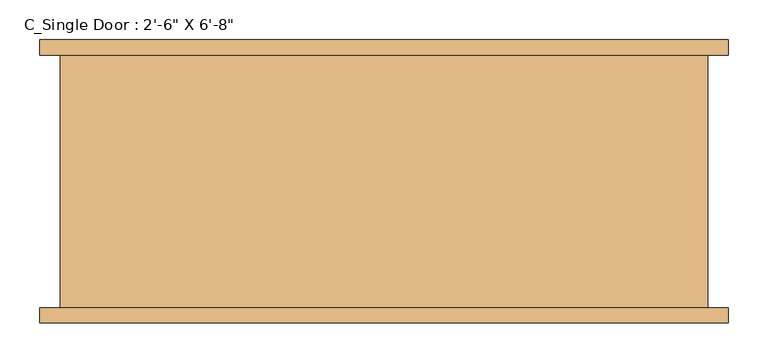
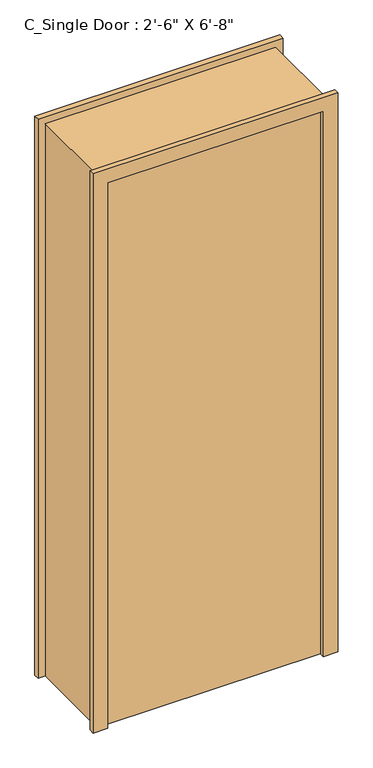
"""IFC4 building model written with IfcOpenShell, lengths in millimetres: door geometry."""

from ifc_helpers import new_model, si_unit, frame, origin, origin_with_axes, place, context, project, spatial, polyline, outline, extrude, source, transform, mapped, element, save


def door_a7de0b9b(model_context):
    return source(origin(), model_context, "Body", "SweptSolid", [
        extrude(outline(polyline([(381.0, -158.75), (-381.0, -158.75), (-381.0, -107.95), (381.0, -107.95), (381.0, -158.75)])), origin_with_axes(), (0.0, 0.0, 1.0), 2032.0),
        extrude(outline(polyline([(2032.0, -381.0), (2032.0, 381.0), (0.0, 381.0), (0.0, 431.8), (2082.8, 431.8), (2082.8, -431.8), (0.0, -431.8), (0.0, -381.0), (2032.0, -381.0)])), frame((0.0, -177.8, 0.0), z_axis=(0.0, 1.0, 0.0), x_axis=(0.0, 0.0, 1.0)), (0.0, 0.0, 1.0), 19.05),
        extrude(outline(polyline([(2032.0, -381.0), (2032.0, 381.0), (0.0, 381.0), (0.0, 431.8), (2082.8, 431.8), (2082.8, -431.8), (0.0, -431.8), (0.0, -381.0), (2032.0, -381.0)])), frame((0.0, 158.75, 0.0), z_axis=(0.0, 1.0, 0.0), x_axis=(0.0, 0.0, 1.0)), (0.0, 0.0, 1.0), 19.05),
        extrude(outline(polyline([(0.0, -406.4), (0.0, -381.0), (2032.0, -381.0), (2032.0, 381.0), (0.0, 381.0), (0.0, 406.4), (2057.4, 406.4), (2057.4, -406.4), (0.0, -406.4)])), frame((0.0, -158.75, 0.0), z_axis=(0.0, 1.0, 0.0), x_axis=(0.0, 0.0, 1.0)), (0.0, 0.0, 1.0), 317.5),
    ])


if __name__ == "__main__":
    model = new_model("IFC4")
    model_context = context("Model", 3, world=origin())
    ifc_project = project(units=[si_unit("LENGTHUNIT", "METRE", prefix="MILLI")], contexts=[model_context])
    site = spatial("IfcSite", under=ifc_project)
    building = spatial("IfcBuilding", under=site)
    placement = place(None, origin())
    door_shape = door_a7de0b9b(model_context)
    element("IfcDoor", 1, ObjectType="C_Single Door : 2'-6\" X 6'-8\"", at=placement, inside=building, context=model_context, shape_type="MappedRepresentation", body=[
        mapped(door_shape, transform((0.0, 0.0, 0.0), x_axis=(1.0, 0.0, 0.0), y_axis=(0.0, 1.0, 0.0), z_axis=(0.0, 0.0, 1.0))),
    ])
    save(model, "model.ifc")
